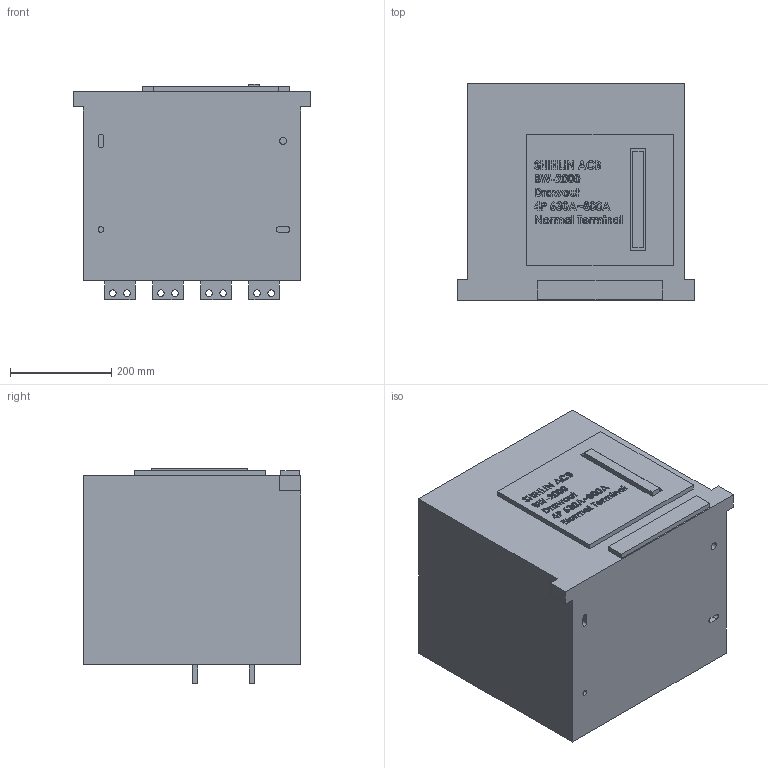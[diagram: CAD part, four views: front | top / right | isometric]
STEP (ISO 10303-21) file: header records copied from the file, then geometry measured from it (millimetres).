
FILE_DESCRIPTION (( 'STEP AP203' ), '1' );
FILE_NAME ('BW-2000-Drawout-4P-630-800A-Normal Terminal.STEP', '2016-11-03T01:06:42', ( '' ), ( '' ), 'SwSTEP 2.0', 'SolidWorks 2015', '' );
FILE_SCHEMA (( 'CONFIG_CONTROL_DESIGN' ));
Length unit declared in the file: millimetre
Products named in the file (1): BW-2000-Drawout-4P-630-800A-Normal Terminal
Bounding box: 470 x 430 x 426 mm (x, y, z)
Volume: 70050928.7 mm3; surface area: 1123267.5 mm2
Topology: 1 solids, 1 shells, 748 faces, 1965 edges, 1310 vertices
Faces by surface type: plane 448, bspline 259, cylinder 41
Entity records: 36866 total; most frequent: CARTESIAN_POINT 19931, ORIENTED_EDGE 3930, DIRECTION 2509, EDGE_CURVE 1965, VECTOR 1365, LINE 1365, VERTEX_POINT 1310, EDGE_LOOP 871
